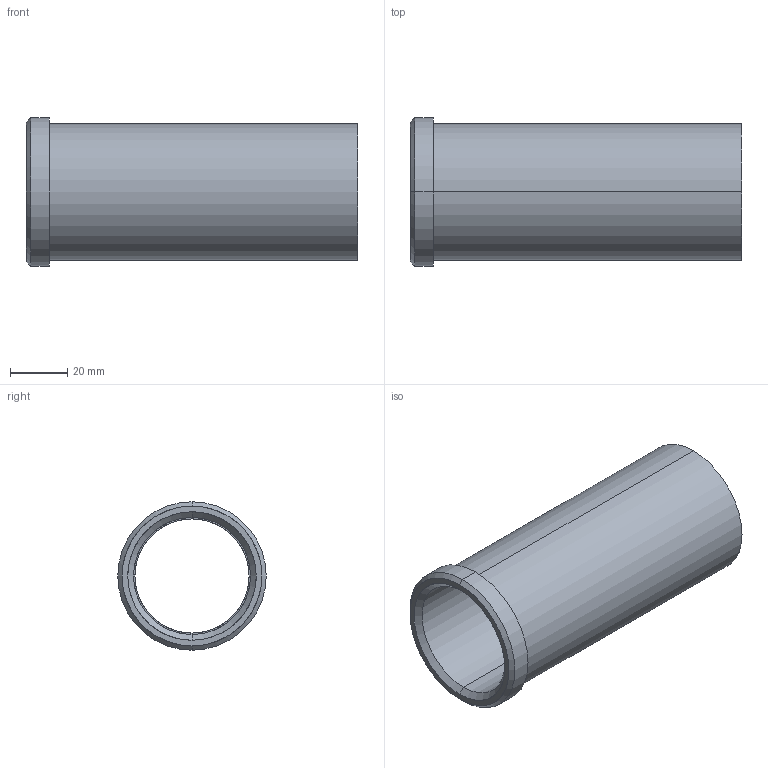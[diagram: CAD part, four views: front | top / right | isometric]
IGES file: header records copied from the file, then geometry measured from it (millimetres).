
Start section: START RECORD GO HERE.
Global section: file name: 353-40X116.igs; native system: DASSAULT SYSTEMES CATIA V5 R20 - www.3ds.com; preprocessor: CATIA Version 5 Release 20 ; author: Utente; organization: NB04-ASUS; date: 20210513.202101; units: millimetre
Bounding box: 116 x 52 x 52 mm (x, y, z)
Surface area: 33618.9 mm2 (no closed solid volume)
Topology: 0 solids, 0 shells, 18 faces, 116 edges, 116 vertices
Faces by surface type: revolution 14, plane 4
